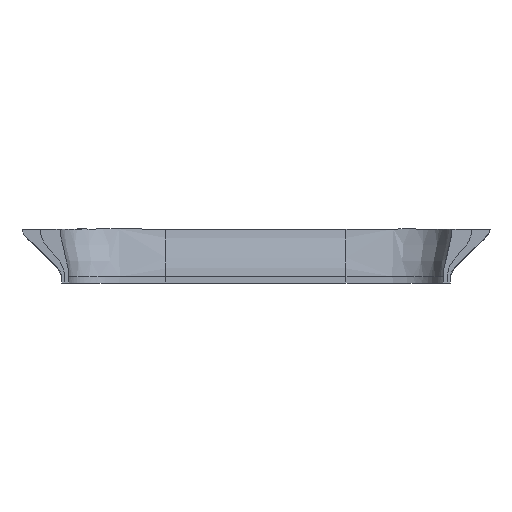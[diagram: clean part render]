
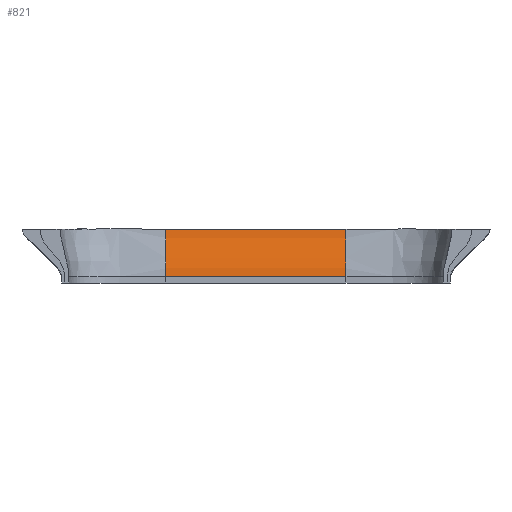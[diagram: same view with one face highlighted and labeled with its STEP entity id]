
A CAD part, left-side view. The second image highlights one B-rep face of the part: STEP entity #821.
In plain terms, the highlighted free-form (B-spline) face has degree [4, 1] with [5, 2] control points.
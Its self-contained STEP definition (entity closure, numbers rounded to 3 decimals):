
#53=(
BOUNDED_CURVE()
B_SPLINE_CURVE(4,(#1408,#1409,#1410,#1411,#1412),.UNSPECIFIED.,.F.,.F.)
B_SPLINE_CURVE_WITH_KNOTS((5,5),(0.,1.),.UNSPECIFIED.)
CURVE()
GEOMETRIC_REPRESENTATION_ITEM()
RATIONAL_B_SPLINE_CURVE((1.,1.,1.,1.,1.))
REPRESENTATION_ITEM('')
);
#57=(
BOUNDED_CURVE()
B_SPLINE_CURVE(4,(#2304,#2305,#2306,#2307,#2308),.UNSPECIFIED.,.F.,.F.)
B_SPLINE_CURVE_WITH_KNOTS((5,5),(0.,1.),.UNSPECIFIED.)
CURVE()
GEOMETRIC_REPRESENTATION_ITEM()
RATIONAL_B_SPLINE_CURVE((1.,1.,1.,1.,1.))
REPRESENTATION_ITEM('')
);
#64=(
BOUNDED_SURFACE()
B_SPLINE_SURFACE(4,1,((#2333,#2334),(#2335,#2336),(#2337,#2338),(#2339,
#2340),(#2341,#2342)),.UNSPECIFIED.,.F.,.F.,.F.)
B_SPLINE_SURFACE_WITH_KNOTS((5,5),(2,2),(0.,1.),(-2.5,2.5),
 .UNSPECIFIED.)
GEOMETRIC_REPRESENTATION_ITEM()
RATIONAL_B_SPLINE_SURFACE(((1.,1.),(1.,1.),(1.,1.),(1.,1.),(1.,1.)))
REPRESENTATION_ITEM('')
SURFACE()
);
#145=FACE_OUTER_BOUND('',#194,.T.);
#194=EDGE_LOOP('',(#673,#674,#675,#676));
#263=LINE('',#2343,#323);
#264=LINE('',#2344,#324);
#323=VECTOR('',#993,10.);
#324=VECTOR('',#994,10.);
#373=VERTEX_POINT('',#1406);
#374=VERTEX_POINT('',#1407);
#394=VERTEX_POINT('',#2302);
#395=VERTEX_POINT('',#2303);
#457=EDGE_CURVE('',#373,#374,#53,.T.);
#495=EDGE_CURVE('',#394,#395,#57,.T.);
#498=EDGE_CURVE('',#394,#373,#263,.T.);
#499=EDGE_CURVE('',#374,#395,#264,.T.);
#673=ORIENTED_EDGE('',*,*,#498,.F.);
#674=ORIENTED_EDGE('',*,*,#495,.T.);
#675=ORIENTED_EDGE('',*,*,#499,.F.);
#676=ORIENTED_EDGE('',*,*,#457,.F.);
#821=ADVANCED_FACE('',(#145),#64,.F.);
#993=DIRECTION('',(0.,-1.,0.));
#994=DIRECTION('',(0.,1.,0.));
#1406=CARTESIAN_POINT('',(124.4,-25.,-88.5));
#1407=CARTESIAN_POINT('',(122.,-25.,-101.7));
#1408=CARTESIAN_POINT('Ctrl Pts',(124.4,-25.,-88.5));
#1409=CARTESIAN_POINT('Ctrl Pts',(124.4,-25.,-91.5));
#1410=CARTESIAN_POINT('Ctrl Pts',(123.2,-25.,-95.1));
#1411=CARTESIAN_POINT('Ctrl Pts',(122.,-25.,-98.7));
#1412=CARTESIAN_POINT('Ctrl Pts',(122.,-25.,-101.7));
#2302=CARTESIAN_POINT('',(124.4,25.,-88.5));
#2303=CARTESIAN_POINT('',(122.,25.,-101.7));
#2304=CARTESIAN_POINT('Ctrl Pts',(124.4,25.,-88.5));
#2305=CARTESIAN_POINT('Ctrl Pts',(124.4,25.,-91.5));
#2306=CARTESIAN_POINT('Ctrl Pts',(123.2,25.,-95.1));
#2307=CARTESIAN_POINT('Ctrl Pts',(122.,25.,-98.7));
#2308=CARTESIAN_POINT('Ctrl Pts',(122.,25.,-101.7));
#2333=CARTESIAN_POINT('Ctrl Pts',(124.4,-25.,-88.5));
#2334=CARTESIAN_POINT('Ctrl Pts',(124.4,25.,-88.5));
#2335=CARTESIAN_POINT('Ctrl Pts',(124.4,-25.,-91.5));
#2336=CARTESIAN_POINT('Ctrl Pts',(124.4,25.,-91.5));
#2337=CARTESIAN_POINT('Ctrl Pts',(123.2,-25.,-95.1));
#2338=CARTESIAN_POINT('Ctrl Pts',(123.2,25.,-95.1));
#2339=CARTESIAN_POINT('Ctrl Pts',(122.,-25.,-98.7));
#2340=CARTESIAN_POINT('Ctrl Pts',(122.,25.,-98.7));
#2341=CARTESIAN_POINT('Ctrl Pts',(122.,-25.,-101.7));
#2342=CARTESIAN_POINT('Ctrl Pts',(122.,25.,-101.7));
#2343=CARTESIAN_POINT('',(124.4,0.,-88.5));
#2344=CARTESIAN_POINT('',(122.,0.,-101.7));
